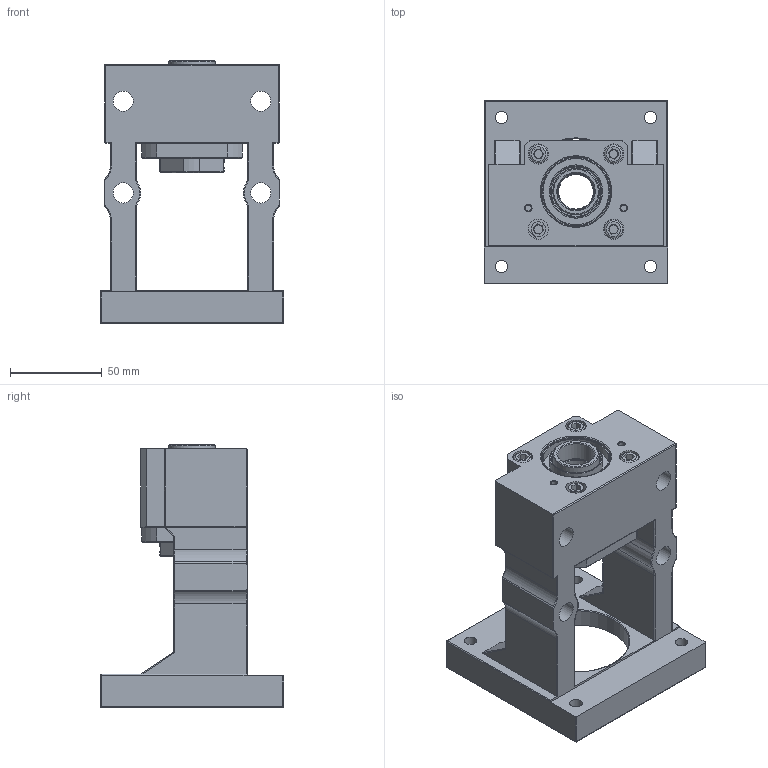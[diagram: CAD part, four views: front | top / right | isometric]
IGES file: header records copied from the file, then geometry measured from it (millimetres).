
Start section: SolidWorks IGES file using analytic representation for surfaces
Global section: file name: C:\Users\117\Desktop\MBCF20-Y.IGS; native system: SolidWorks 2018; preprocessor: SolidWorks 2018; author: 117; date: 190201.102645; units: millimetre
Bounding box: 100 x 100 x 143 mm (x, y, z)
Surface area: 87354.6 mm2 (no closed solid volume)
Topology: 0 solids, 3 shells, 298 faces, 1514 edges, 1432 vertices
Faces by surface type: revolution 188, bspline 110
